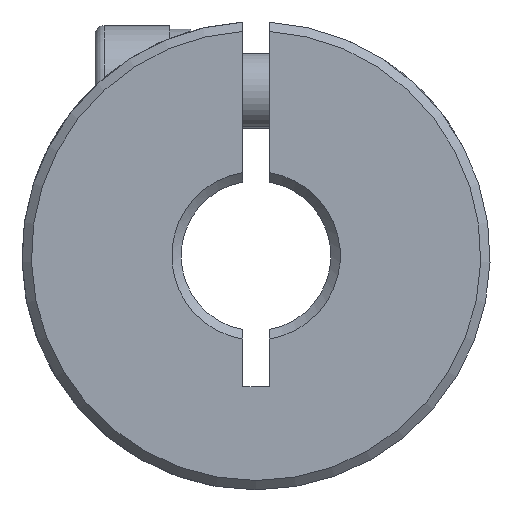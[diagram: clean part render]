
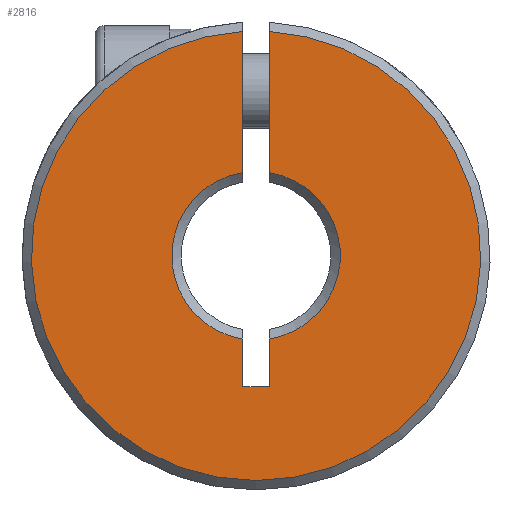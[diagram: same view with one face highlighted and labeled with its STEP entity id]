
A CAD part, front view. The second image highlights one B-rep face of the part: STEP entity #2816.
In plain terms, the highlighted planar face has unit normal (0, -1, 0).
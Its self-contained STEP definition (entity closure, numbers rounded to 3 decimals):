
#148 = AXIS2_PLACEMENT_3D ( 'NONE', #2744, #1442, #615 ) ;
#236 = ORIENTED_EDGE ( 'NONE', *, *, #852, .T. ) ;
#249 = FACE_OUTER_BOUND ( 'NONE', #2085, .T. ) ;
#449 = CARTESIAN_POINT ( 'NONE',  ( 0.7, 0.25, -4.445 ) ) ;
#480 = VERTEX_POINT ( 'NONE', #981 ) ;
#483 = VECTOR ( 'NONE', #2720, 1000. ) ;
#519 = VERTEX_POINT ( 'NONE', #2136 ) ;
#605 = ORIENTED_EDGE ( 'NONE', *, *, #714, .T. ) ;
#615 = DIRECTION ( 'NONE',  ( 0., 0., 1. ) ) ;
#688 = EDGE_CURVE ( 'NONE', #2872, #3006, #2693, .T. ) ;
#714 = EDGE_CURVE ( 'NONE', #519, #1691, #2448, .T. ) ;
#721 = ORIENTED_EDGE ( 'NONE', *, *, #1232, .F. ) ;
#752 = CARTESIAN_POINT ( 'NONE',  ( 0.7, 0.25, -7. ) ) ;
#757 = DIRECTION ( 'NONE',  ( 0., 0., -1. ) ) ;
#778 = ORIENTED_EDGE ( 'NONE', *, *, #1450, .F. ) ;
#827 = LINE ( 'NONE', #1373, #2293 ) ;
#852 = EDGE_CURVE ( 'NONE', #3128, #480, #3454, .T. ) ;
#903 = VECTOR ( 'NONE', #1328, 1000. ) ;
#939 = CARTESIAN_POINT ( 'NONE',  ( -0.7, 0.25, -4.445 ) ) ;
#981 = CARTESIAN_POINT ( 'NONE',  ( 0.7, 0.25, 11.98 ) ) ;
#987 = CARTESIAN_POINT ( 'NONE',  ( 0.7, 0.25, -7. ) ) ;
#1015 = AXIS2_PLACEMENT_3D ( 'NONE', #2972, #1371, #3236 ) ;
#1082 = DIRECTION ( 'NONE',  ( 0., 1., 0. ) ) ;
#1206 = LINE ( 'NONE', #2490, #483 ) ;
#1232 = EDGE_CURVE ( 'NONE', #519, #480, #1206, .T. ) ;
#1282 = ORIENTED_EDGE ( 'NONE', *, *, #688, .F. ) ;
#1328 = DIRECTION ( 'NONE',  ( 1., 0., 0. ) ) ;
#1359 = AXIS2_PLACEMENT_3D ( 'NONE', #1891, #1082, #2947 ) ;
#1371 = DIRECTION ( 'NONE',  ( 0., 1., 0. ) ) ;
#1373 = CARTESIAN_POINT ( 'NONE',  ( -0.7, 0.25, -7. ) ) ;
#1442 = DIRECTION ( 'NONE',  ( 0., 1., 0. ) ) ;
#1450 = EDGE_CURVE ( 'NONE', #3006, #1691, #2595, .T. ) ;
#1543 = VERTEX_POINT ( 'NONE', #2240 ) ;
#1648 = VERTEX_POINT ( 'NONE', #939 ) ;
#1691 = VERTEX_POINT ( 'NONE', #449 ) ;
#1713 = VECTOR ( 'NONE', #2884, 1000. ) ;
#1833 = ORIENTED_EDGE ( 'NONE', *, *, #2478, .T. ) ;
#1856 = CARTESIAN_POINT ( 'NONE',  ( -0.7, 0.25, 11.98 ) ) ;
#1860 = CARTESIAN_POINT ( 'NONE',  ( 0.7, 0.25, -7. ) ) ;
#1891 = CARTESIAN_POINT ( 'NONE',  ( 0., 0.25, 0. ) ) ;
#2085 = EDGE_LOOP ( 'NONE', ( #721, #605, #778, #1282, #2115, #1833, #2487, #236 ) ) ;
#2115 = ORIENTED_EDGE ( 'NONE', *, *, #3258, .F. ) ;
#2136 = CARTESIAN_POINT ( 'NONE',  ( 0.7, 0.25, 4.445 ) ) ;
#2172 = AXIS2_PLACEMENT_3D ( 'NONE', #2524, #2787, #2256 ) ;
#2240 = CARTESIAN_POINT ( 'NONE',  ( -0.7, 0.25, 4.445 ) ) ;
#2256 = DIRECTION ( 'NONE',  ( 0., 0., 1. ) ) ;
#2293 = VECTOR ( 'NONE', #3231, 1000. ) ;
#2340 = LINE ( 'NONE', #2356, #2702 ) ;
#2356 = CARTESIAN_POINT ( 'NONE',  ( -0.7, 0.25, -7. ) ) ;
#2448 = CIRCLE ( 'NONE', #1359, 4.5 ) ;
#2473 = PLANE ( 'NONE',  #148 ) ;
#2478 = EDGE_CURVE ( 'NONE', #1648, #1543, #3472, .T. ) ;
#2487 = ORIENTED_EDGE ( 'NONE', *, *, #3144, .F. ) ;
#2490 = CARTESIAN_POINT ( 'NONE',  ( 0.7, 0.25, -7. ) ) ;
#2524 = CARTESIAN_POINT ( 'NONE',  ( 0., 0.25, 0. ) ) ;
#2537 = CARTESIAN_POINT ( 'NONE',  ( -0.7, 0.25, -7. ) ) ;
#2595 = LINE ( 'NONE', #752, #1713 ) ;
#2693 = LINE ( 'NONE', #1860, #903 ) ;
#2702 = VECTOR ( 'NONE', #757, 1000. ) ;
#2720 = DIRECTION ( 'NONE',  ( 0., 0., 1. ) ) ;
#2744 = CARTESIAN_POINT ( 'NONE',  ( 12.5, 0.25, -50. ) ) ;
#2787 = DIRECTION ( 'NONE',  ( 0., -1., 0. ) ) ;
#2816 = ADVANCED_FACE ( 'NONE', ( #249 ), #2473, .F. ) ;
#2872 = VERTEX_POINT ( 'NONE', #2537 ) ;
#2884 = DIRECTION ( 'NONE',  ( 0., 0., 1. ) ) ;
#2947 = DIRECTION ( 'NONE',  ( 0., 0., 1. ) ) ;
#2972 = CARTESIAN_POINT ( 'NONE',  ( 0., 0.25, 0. ) ) ;
#3006 = VERTEX_POINT ( 'NONE', #987 ) ;
#3128 = VERTEX_POINT ( 'NONE', #1856 ) ;
#3144 = EDGE_CURVE ( 'NONE', #3128, #1543, #2340, .T. ) ;
#3231 = DIRECTION ( 'NONE',  ( 0., 0., -1. ) ) ;
#3236 = DIRECTION ( 'NONE',  ( 0., 0., 1. ) ) ;
#3258 = EDGE_CURVE ( 'NONE', #1648, #2872, #827, .T. ) ;
#3454 = CIRCLE ( 'NONE', #2172, 12. ) ;
#3472 = CIRCLE ( 'NONE', #1015, 4.5 ) ;
